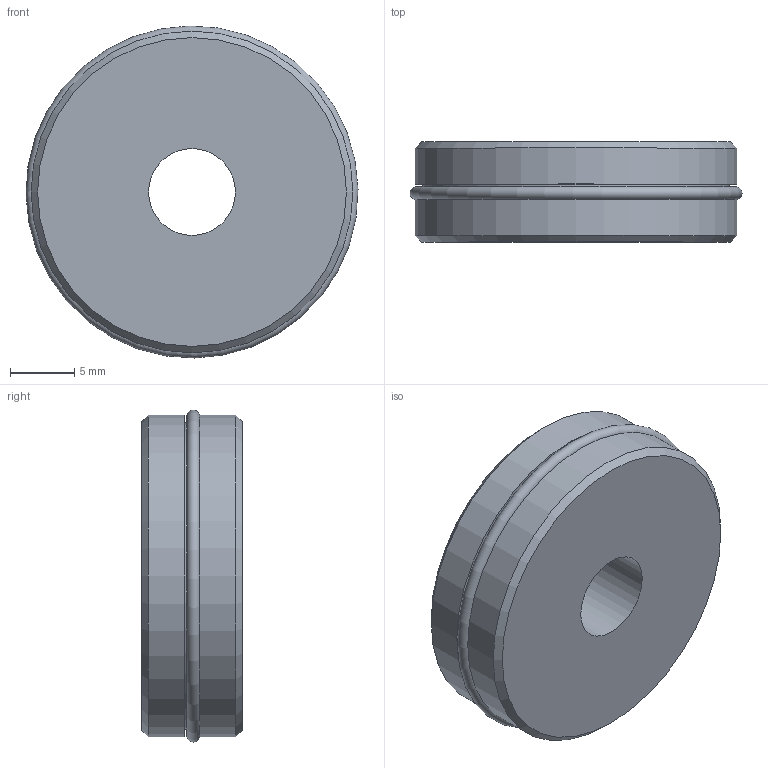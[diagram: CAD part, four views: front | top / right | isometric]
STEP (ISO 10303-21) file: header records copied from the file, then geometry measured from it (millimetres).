
FILE_DESCRIPTION(/* description */ (''),/* implementation_level */ '2;1');
FILE_NAME(/* name */ '\\dc01\daten\CAD\Standard\Daten\3D-Datenbank\ZS\step-Daten\G-ZS050-1.stp',/* time_stamp */ '2019-03-22T09:31:16+01:00',/* author */ ('ysplieth'),/* organization */ (''),/* preprocessor_version */ 'ST-DEVELOPER v17',/* originating_system */ 'Autodesk Inventor 2018',/* authorisation */ '');
FILE_SCHEMA (('AUTOMOTIVE_DESIGN { 1 0 10303 214 3 1 1 }'));
Length unit declared in the file: millimetre
Products named in the file (1): Bauteil1
Bounding box: 25.8 x 7.8 x 25.8 mm (x, y, z)
Volume: 3536.3 mm3; surface area: 1973.8 mm2
Topology: 2 solids, 2 shells, 11 faces, 25 edges, 18 vertices
Faces by surface type: cylinder 4, plane 4, cone 2, torus 1
Full cylindrical faces by diameter (mm): 6.75 x1, 23.8 x1, 25 x2
Entity records: 394 total; most frequent: DIRECTION 68, CARTESIAN_POINT 55, ORIENTED_EDGE 50, AXIS2_PLACEMENT_3D 31, EDGE_CURVE 25, CIRCLE 19, VERTEX_POINT 18, EDGE_LOOP 15
